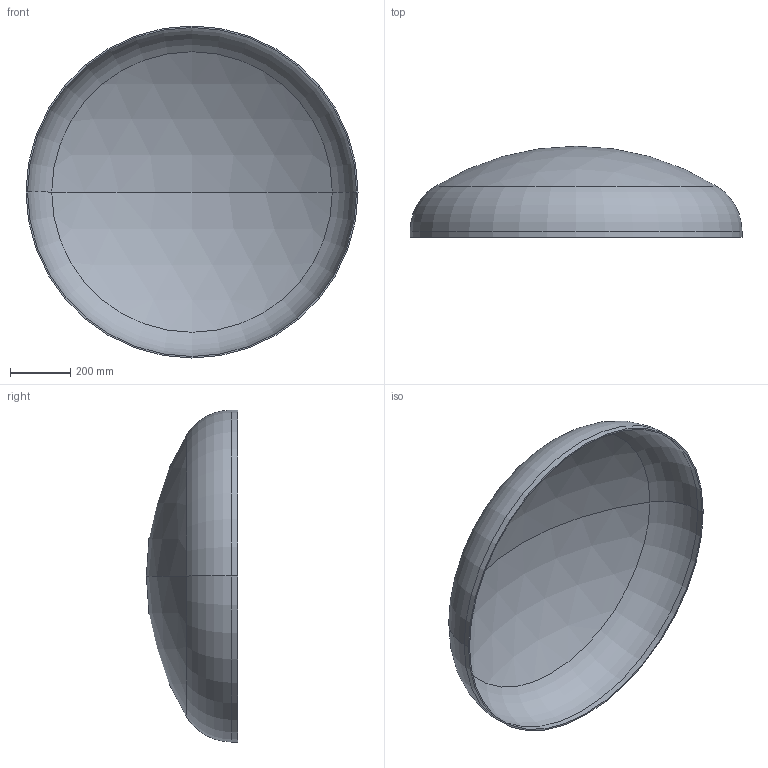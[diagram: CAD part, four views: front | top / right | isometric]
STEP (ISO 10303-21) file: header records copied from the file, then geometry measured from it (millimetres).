
FILE_DESCRIPTION (( 'STEP AP203' ), '1' );
FILE_NAME ('DIN 28013 Korbbogenform_-_Boden DIN 28013 - 1100 x 20 - I - s=5.step', '2016-07-01T08:59:29', ( '' ), ( '' ), 'SwSTEP 2.0', 'SolidWorks 2013', '' );
FILE_SCHEMA (( 'CONFIG_CONTROL_DESIGN' ));
Length unit declared in the file: millimetre
Products named in the file (1): DIN 28013 Korbbogenform_-_Boden DIN 28013 - 1100 x 20 - I - s=5
Bounding box: 1100 x 302.11 x 1100 mm (x, y, z)
Volume: 6890343.5 mm3; surface area: 2773388.9 mm2
Topology: 1 solids, 1 shells, 13 faces, 24 edges, 14 vertices
Faces by surface type: torus 4, cylinder 4, sphere 4, plane 1
Entity records: 407 total; most frequent: DIRECTION 72, CARTESIAN_POINT 52, ORIENTED_EDGE 48, AXIS2_PLACEMENT_3D 34, EDGE_CURVE 24, CIRCLE 20, EDGE_LOOP 14, VERTEX_POINT 14
